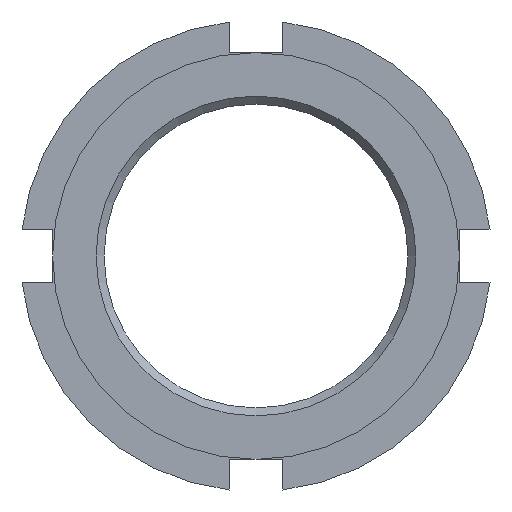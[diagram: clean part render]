
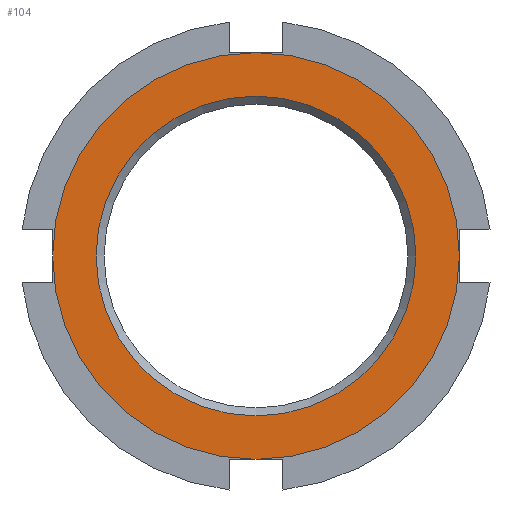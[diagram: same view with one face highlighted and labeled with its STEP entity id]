
A CAD part, left-side view. The second image highlights one B-rep face of the part: STEP entity #104.
In plain terms, the highlighted planar face has unit normal (-1, 0, 0).
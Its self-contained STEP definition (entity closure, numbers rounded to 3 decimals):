
#104 = ADVANCED_FACE( '', ( #177, #178 ), #179, .F. );
#177 = FACE_OUTER_BOUND( '', #255, .T. );
#178 = FACE_BOUND( '', #256, .T. );
#179 = PLANE( '', #257 );
#255 = EDGE_LOOP( '', ( #475 ) );
#256 = EDGE_LOOP( '', ( #476 ) );
#257 = AXIS2_PLACEMENT_3D( '', #477, #478, #479 );
#475 = ORIENTED_EDGE( '', *, *, #570, .F. );
#476 = ORIENTED_EDGE( '', *, *, #550, .T. );
#477 = CARTESIAN_POINT( '', ( 0., 0., 0. ) );
#478 = DIRECTION( '', ( 1., 0., 0. ) );
#479 = DIRECTION( '', ( 0., 0., -1. ) );
#550 = EDGE_CURVE( '', #656, #656, #657, .T. );
#570 = EDGE_CURVE( '', #684, #684, #685, .T. );
#656 = VERTEX_POINT( '', #829 );
#657 = CIRCLE( '', #830, 14.938 );
#684 = VERTEX_POINT( '', #865 );
#685 = CIRCLE( '', #866, 19. );
#829 = CARTESIAN_POINT( '', ( 0., 0., -14.938 ) );
#830 = AXIS2_PLACEMENT_3D( '', #947, #948, #949 );
#865 = CARTESIAN_POINT( '', ( 0., 0., -19. ) );
#866 = AXIS2_PLACEMENT_3D( '', #994, #995, #996 );
#947 = CARTESIAN_POINT( '', ( 0., 0., 0. ) );
#948 = DIRECTION( '', ( 1., 0., 0. ) );
#949 = DIRECTION( '', ( 0., 0., -1. ) );
#994 = CARTESIAN_POINT( '', ( 0., 0., 0. ) );
#995 = DIRECTION( '', ( 1., 0., 0. ) );
#996 = DIRECTION( '', ( 0., 0., -1. ) );
